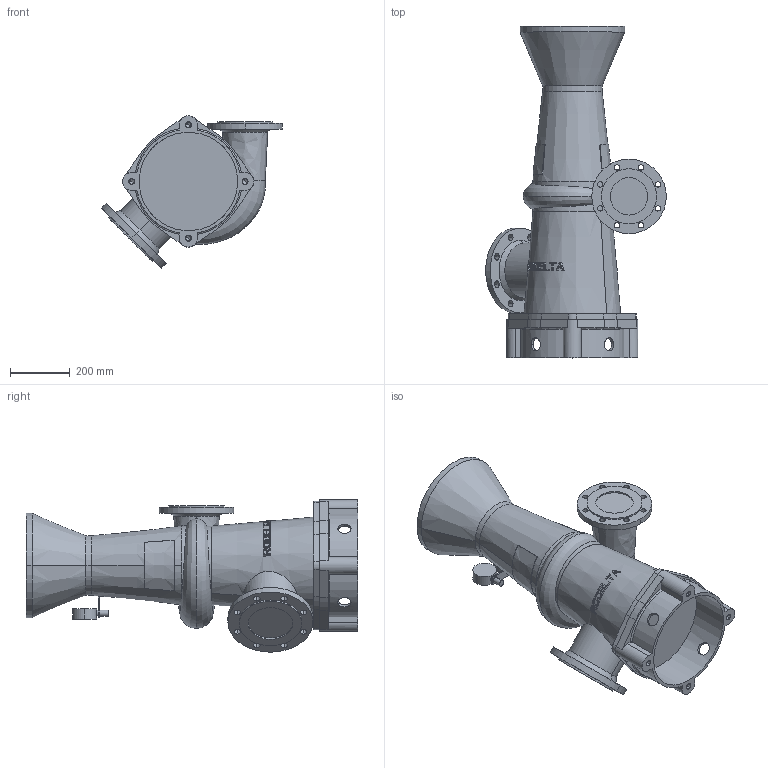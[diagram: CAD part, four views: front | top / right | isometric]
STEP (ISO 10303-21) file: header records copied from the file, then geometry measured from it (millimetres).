
FILE_DESCRIPTION((''),'2;1');
FILE_NAME('NS6210_ASM','2024-07-17T',('Lyritlocal'),(''),'PRO/ENGINEER BY PARAMETRIC TECHNOLOGY CORPORATION, 2016360','PRO/ENGINEER BY PARAMETRIC TECHNOLOGY CORPORATION, 2016360','');
FILE_SCHEMA(('CONFIG_CONTROL_DESIGN'));
Length unit declared in the file: millimetre
Products named in the file (3): 6210_VOET; 6210; NS6210_ASM
Assembly tree (2 placements, depth 2):
  NS6210_ASM
    6210_VOET
    6210
Bounding box: 605.46 x 1112 x 510.46 mm (x, y, z)
Volume: 73509644.5 mm3; surface area: 2060130 mm2
Topology: 2 solids, 6 shells, 517 faces, 1386 edges, 915 vertices
Faces by surface type: plane 342, cylinder 125, cone 40, bspline 6, torus 4
Entity records: 18499 total; most frequent: CARTESIAN_POINT 5977, ORIENTED_EDGE 2740, DIRECTION 2341, EDGE_CURVE 1378, VERTEX_POINT 915, AXIS2_PLACEMENT_3D 908, EDGE_LOOP 607, VECTOR 525
